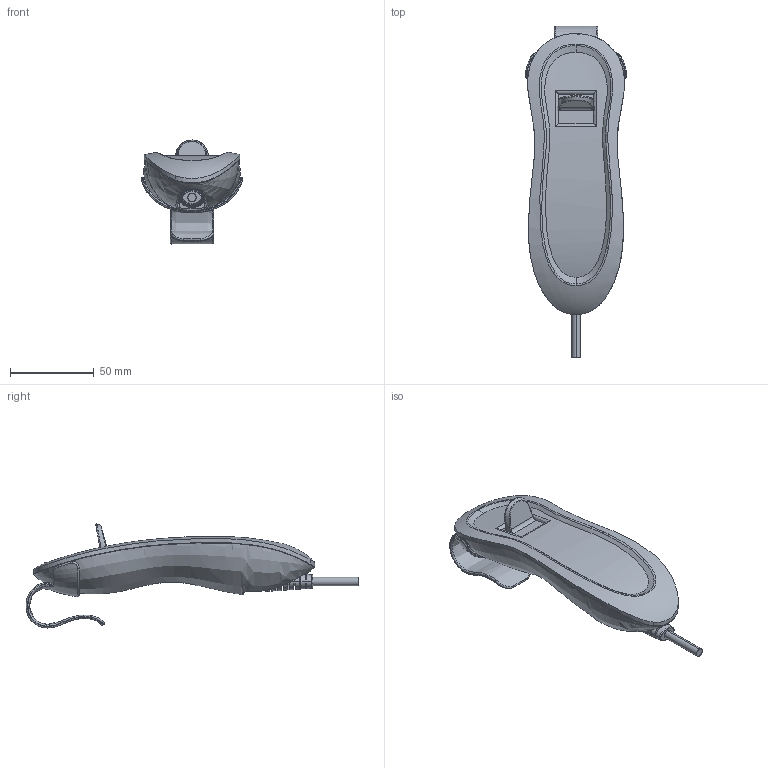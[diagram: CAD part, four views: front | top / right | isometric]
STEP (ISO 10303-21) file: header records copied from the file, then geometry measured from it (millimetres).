
FILE_DESCRIPTION (( 'STEP AP203' ), '1' );
FILE_NAME ('3D_TFH5.STEP', '2017-07-07T04:21:16', ( '' ), ( '' ), 'SwSTEP 2.0', 'SolidWorks 2015', '' );
FILE_SCHEMA (( 'CONFIG_CONTROL_DESIGN' ));
Length unit declared in the file: millimetre
Products named in the file (1): 3D_TFH5
Bounding box: 60.18 x 197.81 x 61.97 mm (x, y, z)
Volume: 175896.4 mm3; surface area: 50039.8 mm2
Topology: 5 solids, 5 shells, 324 faces, 810 edges, 508 vertices
Faces by surface type: bspline 176, plane 90, cylinder 58
Entity records: 52706 total; most frequent: CARTESIAN_POINT 46438, ORIENTED_EDGE 1616, EDGE_CURVE 808, DIRECTION 768, VERTEX_POINT 508, B_SPLINE_CURVE_WITH_KNOTS 458, EDGE_LOOP 342, ADVANCED_FACE 324
